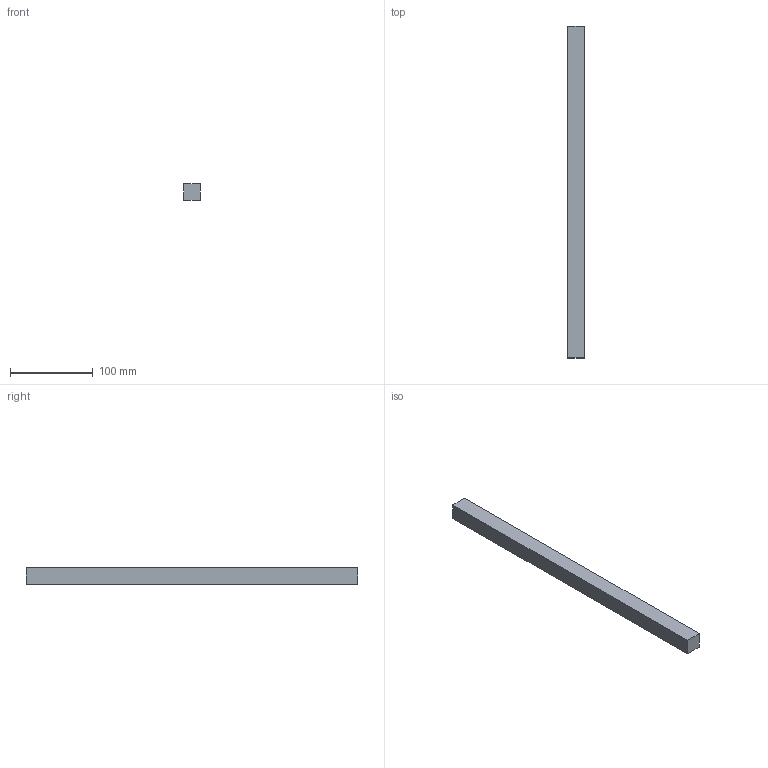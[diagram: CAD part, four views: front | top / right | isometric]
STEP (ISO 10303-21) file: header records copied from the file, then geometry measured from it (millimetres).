
FILE_DESCRIPTION(/* description */ ('STEP AP242','CAx-IF Rec.Pracs.---Representation and Presentation of Product Manufacturing Information (PMI)---4.0---2014-10-13','CAx-IF Rec.Pracs.---3D Tessellated Geometry---0.4---2014-09-14','2;1','CAx-IF Rec.Pracs.---User Defined Attributes---1.5---2016-08-15'),/* implementation_level */ '2;1');
FILE_NAME(/* name */ 'Full Assembly - Part 1 (12)',/* time_stamp */ '2025-11-03T04:00:12Z',/* author */ (''),/* organization */ (''),/* preprocessor_version */ 'ST-DEVELOPER v20',/* originating_system */ 'ONSHAPE BY PTC INC, 1.206',/* authorisation */ ' ');
FILE_SCHEMA (('AP242_MANAGED_MODEL_BASED_3D_ENGINEERING_MIM_LF { 1 0 10303 442 1 1 4 }'));
Length unit declared in the file: metre
Products named in the file (1): Part 1
Bounding box: 20 x 400 x 20 mm (x, y, z)
Volume: 160000 mm3; surface area: 32800 mm2
Topology: 1 solids, 1 shells, 6 faces, 12 edges, 8 vertices
Faces by surface type: plane 6
Entity records: 178 total; most frequent: CARTESIAN_POINT 27, DIRECTION 26, ORIENTED_EDGE 24, EDGE_CURVE 12, LINE 12, VECTOR 12, VERTEX_POINT 8, AXIS2_PLACEMENT_3D 7
